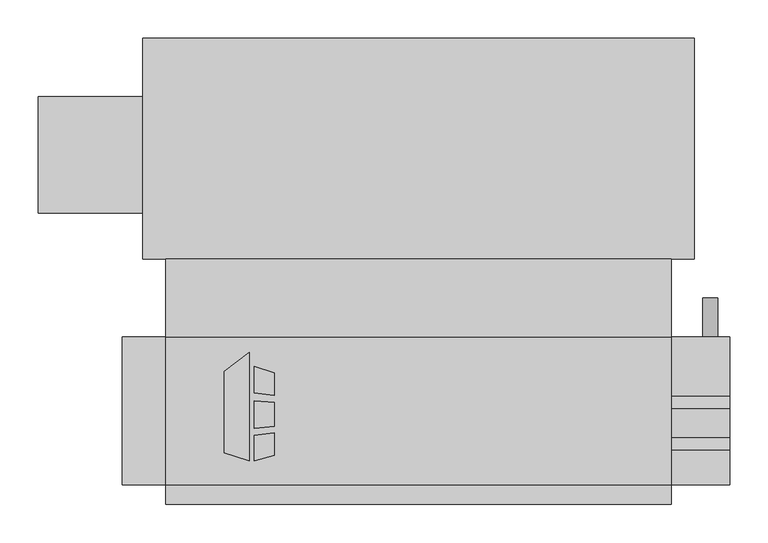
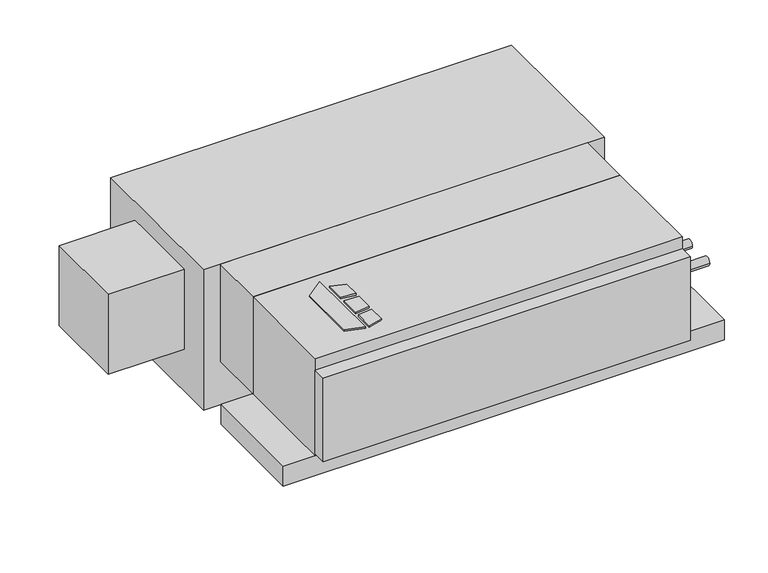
"""IFC4 building model written with IfcOpenShell, lengths in millimetres: proxy geometry, Concealed_Horizontal_Fan_Coil_Unit_With_Plenum_-_CPY_-_IEC_-_2-Pipe_Cool-EHeat_RH_2022 : Size 04 - 277v/60Hz/1Ph - 4 Row 3.0kW."""

from ifc_helpers import new_model, si_unit, point, frame, frame_2d, origin, origin_with_axes, place, context, project, spatial, polyline, circle_curve, trimmed, segment, composite_curve, outline, extrude, source, transform, mapped, element, save


def mechanical_equipment_ec8f8840(model_context):
    return source(origin(), model_context, "Body", "SweptSolid", [
        extrude(outline(polyline([(-101.6, -186.6953476), (-69.0417033, -161.2580184), (-69.0417033, -303.2125), (-101.6, -292.9929201), (-101.6, -186.6953476)])), origin_with_axes(), (0.0, 0.0, 1.0), 3.175),
        extrude(outline(polyline([(-62.2833703, -214.567352), (-62.2833703, -180.0874379), (-36.2019761, -188.2740115), (-36.2019761, -217.7697446), (-62.2833703, -214.567352)])), origin_with_axes(), (0.0, 0.0, 1.0), 3.175),
        extrude(outline(polyline([(-36.2019761, -296.2240115), (-62.2833703, -303.2125), (-62.2833703, -269.9911996), (-36.2019761, -266.4493564), (-36.2019761, -296.2240115)])), origin_with_axes(), (0.0, 0.0, 1.0), 3.175),
        extrude(outline(polyline([(-36.2019761, -226.8513277), (-36.2019761, -258.101483), (-62.2833703, -260.842748), (-62.2833703, -224.9850378), (-36.2019761, -226.8513277)])), origin_with_axes(), (0.0, 0.0, 1.0), 3.175),
        extrude(outline(composite_curve([segment(trimmed(circle_curve(frame_2d((-280.9875, -104.775)), 7.9375), [point((-273.05, -104.775))], [point((-288.925, -104.775))], False, "CARTESIAN"), True, "CONTINUOUS"), segment(trimmed(circle_curve(frame_2d((-280.9875, -104.775)), 7.9375), [point((-288.925, -104.775))], [point((-273.05, -104.775))], False, "CARTESIAN"), True, "CONTINUOUS")], self_intersect=False)), frame((482.6, 0.0, 0.0), z_axis=(1.0, 0.0, 0.0), x_axis=(0.0, 1.0, 0.0)), (0.0, 0.0, 1.0), 76.2),
        extrude(outline(composite_curve([segment(trimmed(circle_curve(frame_2d((-227.0125, -104.775)), 7.9375), [point((-219.075, -104.775))], [point((-234.95, -104.775))], False, "CARTESIAN"), True, "CONTINUOUS"), segment(trimmed(circle_curve(frame_2d((-227.0125, -104.775)), 7.9375), [point((-234.95, -104.775))], [point((-219.075, -104.775))], False, "CARTESIAN"), True, "CONTINUOUS")], self_intersect=False)), frame((482.6, 0.0, 0.0), z_axis=(1.0, 0.0, 0.0), x_axis=(0.0, 1.0, 0.0)), (0.0, 0.0, 1.0), 76.2),
        extrude(outline(composite_curve([segment(trimmed(circle_curve(frame_2d((-209.55, 533.4)), 9.525), [point((-209.55, 523.875))], [point((-209.55, 542.925))], False, "CARTESIAN"), True, "CONTINUOUS"), segment(trimmed(circle_curve(frame_2d((-209.55, 533.4)), 9.525), [point((-209.55, 542.925))], [point((-209.55, 523.875))], False, "CARTESIAN"), True, "CONTINUOUS")], self_intersect=False)), frame((0.0, -141.2875, 0.0), z_axis=(0.0, 1.0, 0.0), x_axis=(0.0, 0.0, 1.0)), (0.0, 0.0, 1.0), 50.8),
        extrude(outline(polyline([(-177.8, -39.6875), (482.6, -39.6875), (482.6, -141.2875), (-177.8, -141.2875), (-177.8, -39.6875)])), frame((0.0, 0.0, -184.15), z_axis=(0.0, 0.0, 1.0), x_axis=(1.0, 0.0, 0.0)), (0.0, 0.0, 1.0), 184.15),
        extrude(outline(polyline([(482.6, -360.3625), (-177.8, -360.3625), (-177.8, -334.9625), (482.6, -334.9625), (482.6, -360.3625)])), frame((0.0, 0.0, -180.975), z_axis=(0.0, 0.0, 1.0), x_axis=(1.0, 0.0, 0.0)), (0.0, 0.0, 1.0), 158.75),
        extrude(outline(polyline([(-344.4875, 20.6375), (-344.4875, 173.0375), (-207.9625, 173.0375), (-207.9625, 20.6375), (-344.4875, 20.6375)])), frame((0.0, 0.0, -187.325), z_axis=(0.0, 0.0, 1.0), x_axis=(1.0, 0.0, 0.0)), (0.0, 0.0, 1.0), 152.4),
        extrude(outline(polyline([(-207.9625, 249.2375), (512.7625, 249.2375), (512.7625, -39.6875), (-207.9625, -39.6875), (-207.9625, 249.2375)])), frame((0.0, 0.0, -266.7), z_axis=(0.0, 0.0, 1.0), x_axis=(1.0, 0.0, 0.0)), (0.0, 0.0, 1.0), 266.7),
        extrude(outline(polyline([(482.6, -141.2875), (482.6, -334.9625), (-177.8, -334.9625), (-177.8, -141.2875), (482.6, -141.2875)])), frame((0.0, 0.0, -184.15), z_axis=(0.0, 0.0, 1.0), x_axis=(1.0, 0.0, 0.0)), (0.0, 0.0, 1.0), 184.15),
        extrude(outline(polyline([(558.8, -141.2875), (558.8, -334.9625), (-234.95, -334.9625), (-234.95, -141.2875), (558.8, -141.2875)])), frame((0.0, 0.0, -222.25), z_axis=(0.0, 0.0, 1.0), x_axis=(1.0, 0.0, 0.0)), (0.0, 0.0, 1.0), 38.1),
    ])


if __name__ == "__main__":
    model = new_model("IFC4")
    model_context = context("Model", 3, world=origin())
    ifc_project = project(units=[si_unit("LENGTHUNIT", "METRE", prefix="MILLI")], contexts=[model_context])
    site = spatial("IfcSite", under=ifc_project)
    building = spatial("IfcBuilding", under=site)
    placement = place(None, origin())
    mechanical_equipment_shape = mechanical_equipment_ec8f8840(model_context)
    element("IfcBuildingElementProxy", 1, Name="Concealed_Horizontal_Fan_Coil_Unit_With_Plenum_-_CPY_-_IEC_-_2-Pipe_Cool-EHeat_RH_2022 : Size 04 - 277v/60Hz/1Ph - 4 Row 3.0kW", ObjectType="Concealed_Horizontal_Fan_Coil_Unit_With_Plenum_-_CPY_-_IEC_-_2-Pipe_Cool-EHeat_RH_2022 : Size 04 - 277v/60Hz/1Ph - 4 Row 3.0kW", at=placement, inside=building, context=model_context, shape_type="MappedRepresentation", body=[
        mapped(mechanical_equipment_shape, transform((0.0, 0.0, 0.0), x_axis=(1.0, 0.0, 0.0), y_axis=(0.0, 1.0, 0.0), z_axis=(0.0, 0.0, 1.0))),
    ])
    save(model, "model.ifc")
